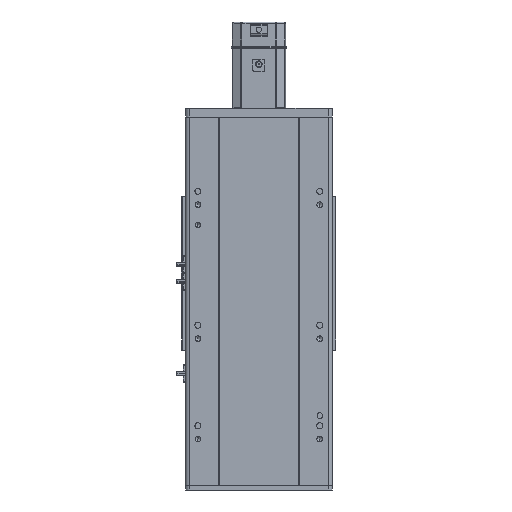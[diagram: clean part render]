
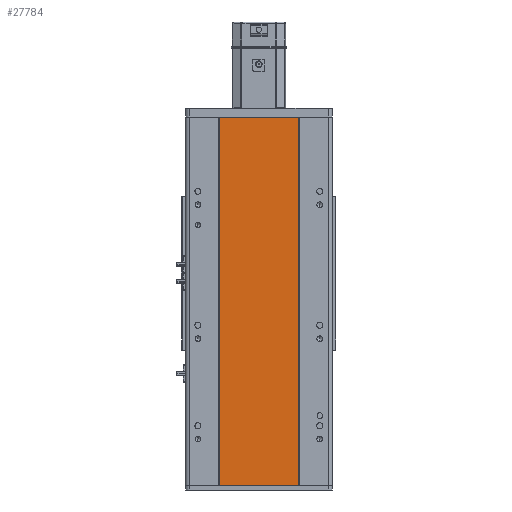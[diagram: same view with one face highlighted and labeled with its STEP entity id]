
A CAD part, front view. The second image highlights one B-rep face of the part: STEP entity #27784.
In plain terms, the highlighted planar face has unit normal (0, -1, 0).
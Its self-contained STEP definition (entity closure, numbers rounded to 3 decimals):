
#865 = FACE_OUTER_BOUND ( 'NONE', #22296, .T. ) ;
#2520 = CARTESIAN_POINT ( 'NONE',  ( -59., 1., 275.5 ) ) ;
#2679 = CARTESIAN_POINT ( 'NONE',  ( 59., 1., 275.5 ) ) ;
#3626 = EDGE_CURVE ( 'NONE', #31098, #10693, #22276, .T. ) ;
#4575 = DIRECTION ( 'NONE',  ( 1., 0., 0. ) ) ;
#5494 = VECTOR ( 'NONE', #7293, 1000. ) ;
#7293 = DIRECTION ( 'NONE',  ( 0., 0., -1. ) ) ;
#9829 = VECTOR ( 'NONE', #18355, 1000. ) ;
#10693 = VERTEX_POINT ( 'NONE', #2679 ) ;
#11847 = EDGE_CURVE ( 'NONE', #10693, #19812, #24617, .T. ) ;
#13511 = LINE ( 'NONE', #33447, #28824 ) ;
#13554 = ORIENTED_EDGE ( 'NONE', *, *, #3626, .F. ) ;
#16073 = DIRECTION ( 'NONE',  ( 0., 1., 0. ) ) ;
#16676 = DIRECTION ( 'NONE',  ( 1., 0., 0. ) ) ;
#18355 = DIRECTION ( 'NONE',  ( 0., 0., -1. ) ) ;
#19087 = ORIENTED_EDGE ( 'NONE', *, *, #11847, .F. ) ;
#19812 = VERTEX_POINT ( 'NONE', #27518 ) ;
#20875 = ORIENTED_EDGE ( 'NONE', *, *, #30799, .T. ) ;
#22276 = LINE ( 'NONE', #34704, #23159 ) ;
#22296 = EDGE_LOOP ( 'NONE', ( #28261, #19087, #13554, #20875 ) ) ;
#22601 = AXIS2_PLACEMENT_3D ( 'NONE', #29803, #16073, #35387 ) ;
#22715 = CARTESIAN_POINT ( 'NONE',  ( -59., 1., -275.5 ) ) ;
#23159 = VECTOR ( 'NONE', #4575, 1000. ) ;
#24617 = LINE ( 'NONE', #26335, #9829 ) ;
#26335 = CARTESIAN_POINT ( 'NONE',  ( 59., 1., 275.5 ) ) ;
#26974 = EDGE_CURVE ( 'NONE', #35972, #19812, #13511, .T. ) ;
#27518 = CARTESIAN_POINT ( 'NONE',  ( 59., 1., -275.5 ) ) ;
#27784 = ADVANCED_FACE ( 'NONE', ( #865 ), #32852, .F. ) ;
#28261 = ORIENTED_EDGE ( 'NONE', *, *, #26974, .T. ) ;
#28824 = VECTOR ( 'NONE', #16676, 1000. ) ;
#29803 = CARTESIAN_POINT ( 'NONE',  ( -59., 1., 275.5 ) ) ;
#30799 = EDGE_CURVE ( 'NONE', #31098, #35972, #31860, .T. ) ;
#31098 = VERTEX_POINT ( 'NONE', #31454 ) ;
#31454 = CARTESIAN_POINT ( 'NONE',  ( -59., 1., 275.5 ) ) ;
#31860 = LINE ( 'NONE', #2520, #5494 ) ;
#32852 = PLANE ( 'NONE',  #22601 ) ;
#33447 = CARTESIAN_POINT ( 'NONE',  ( -59., 1., -275.5 ) ) ;
#34704 = CARTESIAN_POINT ( 'NONE',  ( -59., 1., 275.5 ) ) ;
#35387 = DIRECTION ( 'NONE',  ( -1., 0., 0. ) ) ;
#35972 = VERTEX_POINT ( 'NONE', #22715 ) ;
